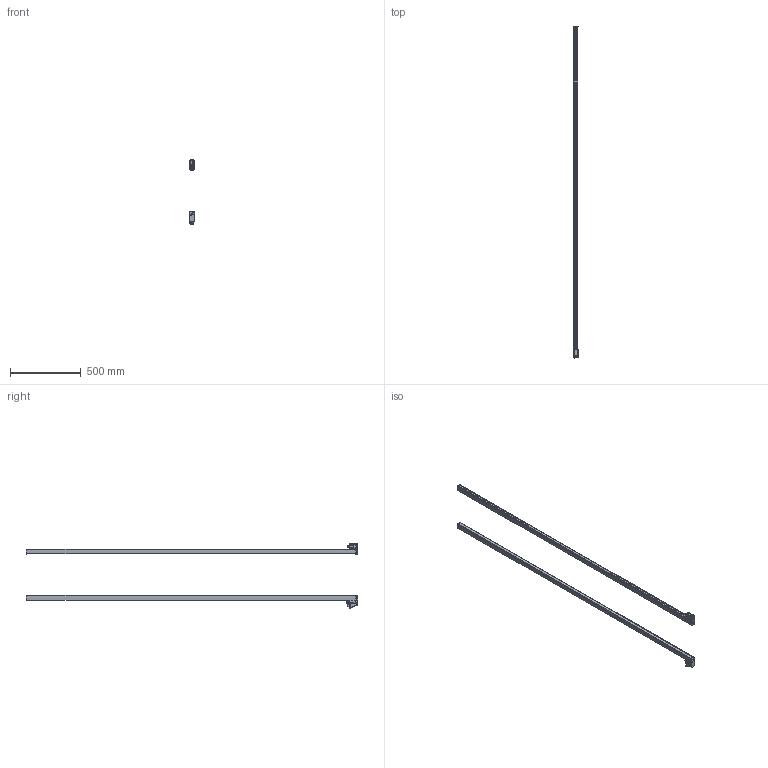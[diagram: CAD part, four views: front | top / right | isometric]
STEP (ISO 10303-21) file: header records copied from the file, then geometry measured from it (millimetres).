
FILE_DESCRIPTION(/* description */ (''),/* implementation_level */ '2;1');
FILE_NAME(/* name */ '3D_CML_700_2320_R.stp',/* time_stamp */ '2013-03-08T12:07:17+01:00',/* author */ (''),/* organization */ (''),/* preprocessor_version */ 'ST-DEVELOPER v11',/* originating_system */ 'SIEMENS UGS NX 6.0',/* authorisation */ '');
FILE_SCHEMA (('AUTOMOTIVE_DESIGN { 1 0 10303 214 1 1 1 1 }'));
Length unit declared in the file: millimetre
Products named in the file (10): M12-X_A; 002491_00.0; 001890_B; 002487_00.0; 002486_00.0; 002485_00.0; 002501_00.0_MODEL; 002492_00.1; 002484_00.1_MODEL; 002489_20.0
Assembly tree (10 placements, depth 4):
  002489_20.0
    002484_00.1_MODEL
      002485_00.0
      002486_00.0
      002487_00.0
      001890_B
    002492_00.1
      002485_00.0
      002491_00.0
      002501_00.0_MODEL
        M12-X_A
Bounding box: 29.39 x 2343.2 x 453.44 mm (x, y, z)
Volume: 4202290.4 mm3; surface area: 768938 mm2
Topology: 9 solids, 18 shells, 4040 faces, 10974 edges, 7006 vertices
Faces by surface type: plane 1996, cylinder 943, bspline 428, cone 260, torus 156, revolution 121, extrusion 87, sphere 49
Full cylindrical faces by diameter (mm): 0.4 x1, 0.75 x1, 0.85 x1, 1 x11, 1.25 x7, 1.4 x1, 2 x4, 2.5 x1, 2.6 x13, 3.2 x4, 3.3 x1, 3.5 x10, 3.7 x2, 4 x7, 4.2 x3, 6 x2, 6.7 x8, 7 x5, 8 x1, 8.6 x2, 9.3 x2, 10 x1, 10.11 x1, 12 x2, 13.98 x1, 15.6 x1, 18 x2
Entity records: 206107 total; most frequent: CARTESIAN_POINT 102243, ORIENTED_EDGE 20910, DIRECTION 18712, EDGE_CURVE 10455, VERTEX_POINT 6800, AXIS2_PLACEMENT_3D 6322, VECTOR 5947, LINE 5860
